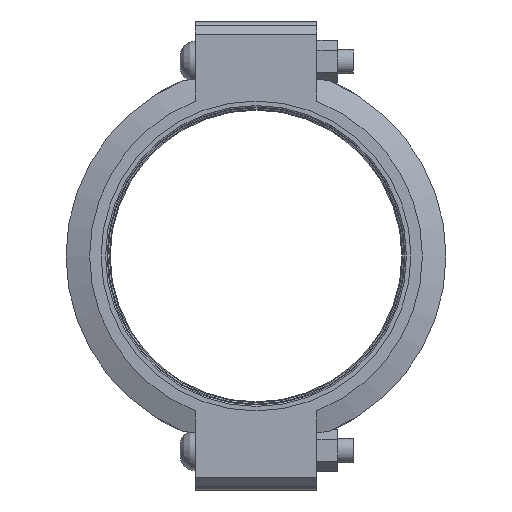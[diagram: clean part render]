
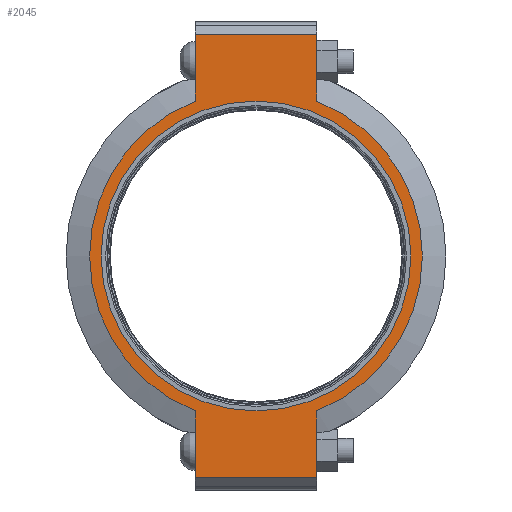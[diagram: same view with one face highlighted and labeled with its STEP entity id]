
A CAD part, left-side view. The second image highlights one B-rep face of the part: STEP entity #2045.
In plain terms, the highlighted planar face has unit normal (-1, 0, 0) as drawn and (0, 0, 1) by its records, which use the part's own axes.
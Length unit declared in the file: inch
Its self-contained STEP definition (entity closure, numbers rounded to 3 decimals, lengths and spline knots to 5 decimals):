
#154=LINE('',#3598,#247);
#165=LINE('',#3649,#258);
#171=LINE('',#3675,#264);
#173=LINE('',#3678,#266);
#174=LINE('',#3683,#267);
#175=LINE('',#3684,#268);
#247=VECTOR('',#2933,0.3937);
#258=VECTOR('',#2964,0.3937);
#264=VECTOR('',#2982,0.3937);
#266=VECTOR('',#2986,0.3937);
#267=VECTOR('',#2991,0.3937);
#268=VECTOR('',#2992,0.3937);
#331=FACE_BOUND('',#584,.T.);
#374=PLANE('',#2391);
#461=FACE_OUTER_BOUND('',#583,.T.);
#583=EDGE_LOOP('',(#1718,#1719,#1720,#1721,#1722,#1723,#1724,#1725));
#584=EDGE_LOOP('',(#1726));
#768=CIRCLE('',#2392,6.84375);
#769=CIRCLE('',#2393,6.84375);
#770=CIRCLE('',#2394,6.375);
#940=VERTEX_POINT('',#3595);
#941=VERTEX_POINT('',#3597);
#958=VERTEX_POINT('',#3644);
#959=VERTEX_POINT('',#3648);
#966=VERTEX_POINT('',#3670);
#967=VERTEX_POINT('',#3674);
#968=VERTEX_POINT('',#3680);
#969=VERTEX_POINT('',#3682);
#970=VERTEX_POINT('',#3686);
#1195=EDGE_CURVE('',#941,#940,#154,.T.);
#1216=EDGE_CURVE('',#959,#958,#165,.T.);
#1227=EDGE_CURVE('',#967,#966,#171,.T.);
#1229=EDGE_CURVE('',#967,#940,#173,.T.);
#1230=EDGE_CURVE('',#966,#968,#768,.T.);
#1231=EDGE_CURVE('',#968,#969,#174,.T.);
#1232=EDGE_CURVE('',#959,#969,#175,.T.);
#1233=EDGE_CURVE('',#958,#941,#769,.T.);
#1234=EDGE_CURVE('',#970,#970,#770,.T.);
#1718=ORIENTED_EDGE('',*,*,#1229,.F.);
#1719=ORIENTED_EDGE('',*,*,#1227,.T.);
#1720=ORIENTED_EDGE('',*,*,#1230,.T.);
#1721=ORIENTED_EDGE('',*,*,#1231,.T.);
#1722=ORIENTED_EDGE('',*,*,#1232,.F.);
#1723=ORIENTED_EDGE('',*,*,#1216,.T.);
#1724=ORIENTED_EDGE('',*,*,#1233,.T.);
#1725=ORIENTED_EDGE('',*,*,#1195,.T.);
#1726=ORIENTED_EDGE('',*,*,#1234,.T.);
#2045=ADVANCED_FACE('',(#461,#331),#374,.T.);
#2391=AXIS2_PLACEMENT_3D('',#3679,#2987,#2988);
#2392=AXIS2_PLACEMENT_3D('',#3681,#2989,#2990);
#2393=AXIS2_PLACEMENT_3D('',#3685,#2993,#2994);
#2394=AXIS2_PLACEMENT_3D('',#3687,#2995,#2996);
#2933=DIRECTION('',(1.,0.,0.));
#2964=DIRECTION('',(1.,0.,0.));
#2982=DIRECTION('',(-1.,0.,0.));
#2986=DIRECTION('',(0.,-1.,0.));
#2987=DIRECTION('center_axis',(0.,0.,1.));
#2988=DIRECTION('ref_axis',(-1.,0.,0.));
#2989=DIRECTION('center_axis',(0.,0.,1.));
#2990=DIRECTION('ref_axis',(1.,0.,0.));
#2991=DIRECTION('',(-1.,0.,0.));
#2992=DIRECTION('',(0.,1.,0.));
#2993=DIRECTION('center_axis',(0.,0.,1.));
#2994=DIRECTION('ref_axis',(1.,0.,0.));
#2995=DIRECTION('center_axis',(0.,0.,-1.));
#2996=DIRECTION('ref_axis',(1.,0.,0.));
#3595=CARTESIAN_POINT('',(9.125,-2.5,1.315));
#3597=CARTESIAN_POINT('',(6.37079,-2.5,1.315));
#3598=CARTESIAN_POINT('',(-9.625,-2.5,1.315));
#3644=CARTESIAN_POINT('',(-6.37079,-2.5,1.315));
#3648=CARTESIAN_POINT('',(-9.125,-2.5,1.315));
#3649=CARTESIAN_POINT('',(-9.625,-2.5,1.315));
#3670=CARTESIAN_POINT('',(6.37079,2.5,1.315));
#3674=CARTESIAN_POINT('',(9.125,2.5,1.315));
#3675=CARTESIAN_POINT('',(9.625,2.5,1.315));
#3678=CARTESIAN_POINT('',(9.125,-1.25,1.315));
#3679=CARTESIAN_POINT('Origin',(0.,0.,
1.315));
#3680=CARTESIAN_POINT('',(-6.37079,2.5,1.315));
#3681=CARTESIAN_POINT('Origin',(0.,0.,1.315));
#3682=CARTESIAN_POINT('',(-9.125,2.5,1.315));
#3683=CARTESIAN_POINT('',(9.625,2.5,1.315));
#3684=CARTESIAN_POINT('',(-9.125,1.25,1.315));
#3685=CARTESIAN_POINT('Origin',(0.,0.,1.315));
#3686=CARTESIAN_POINT('',(-6.375,0.,1.315));
#3687=CARTESIAN_POINT('Origin',(0.,0.,1.315));
